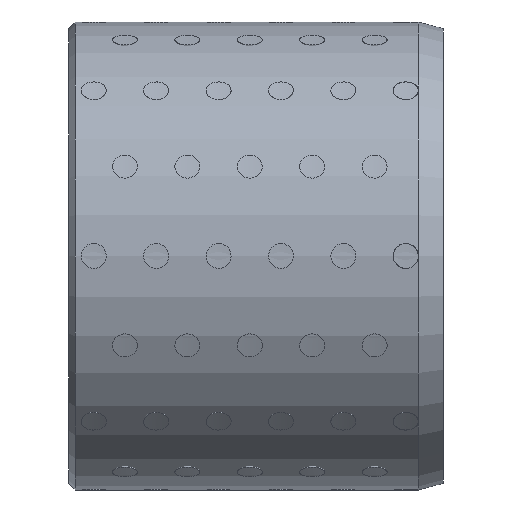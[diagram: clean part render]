
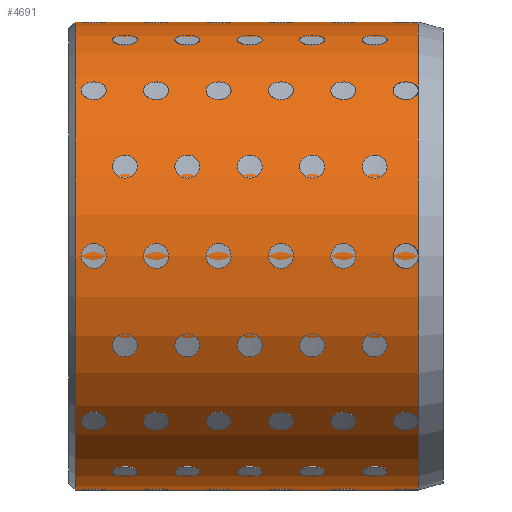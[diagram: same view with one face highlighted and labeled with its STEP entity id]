
A CAD part, left-side view. The second image highlights one B-rep face of the part: STEP entity #4691.
In plain terms, the highlighted cylindrical face has radius 37.5 mm (diameter 75 mm), a full revolution.
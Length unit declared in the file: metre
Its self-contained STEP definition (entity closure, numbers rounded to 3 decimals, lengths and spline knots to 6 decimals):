
#4691 = ADVANCED_FACE( '', ( #5001, #5002 ), #5003, .T. );
#5001 = FACE_OUTER_BOUND( '', #5697, .T. );
#5002 = FACE_OUTER_BOUND( '', #5698, .T. );
#5003 = CYLINDRICAL_SURFACE( '', #5699, 0.0375 );
#5697 = EDGE_LOOP( '', ( #6405 ) );
#5698 = EDGE_LOOP( '', ( #6406 ) );
#5699 = AXIS2_PLACEMENT_3D( '', #6407, #6408, #6409 );
#6405 = ORIENTED_EDGE( '', *, *, #7670, .T. );
#6406 = ORIENTED_EDGE( '', *, *, #7669, .F. );
#6407 = CARTESIAN_POINT( '', ( 0., 0., 0. ) );
#6408 = DIRECTION( '', ( 0., 1., 0. ) );
#6409 = DIRECTION( '', ( 0., 0., -1. ) );
#7669 = EDGE_CURVE( '', #7875, #7875, #7876, .T. );
#7670 = EDGE_CURVE( '', #7877, #7877, #7878, .T. );
#7875 = VERTEX_POINT( '', #8275 );
#7876 = CIRCLE( '', #8276, 0.0375 );
#7877 = VERTEX_POINT( '', #8277 );
#7878 = CIRCLE( '', #8278, 0.0375 );
#8275 = CARTESIAN_POINT( '', ( 0., 0.004, -0.0375 ) );
#8276 = AXIS2_PLACEMENT_3D( '', #19241, #19242, #19243 );
#8277 = CARTESIAN_POINT( '', ( 0., 0.059, -0.0375 ) );
#8278 = AXIS2_PLACEMENT_3D( '', #19244, #19245, #19246 );
#19241 = CARTESIAN_POINT( '', ( 0., 0.004, 0. ) );
#19242 = DIRECTION( '', ( 0., -1., 0. ) );
#19243 = DIRECTION( '', ( 0., 0., -1. ) );
#19244 = CARTESIAN_POINT( '', ( 0., 0.059, 0. ) );
#19245 = DIRECTION( '', ( 0., -1., 0. ) );
#19246 = DIRECTION( '', ( 0., 0., -1. ) );
